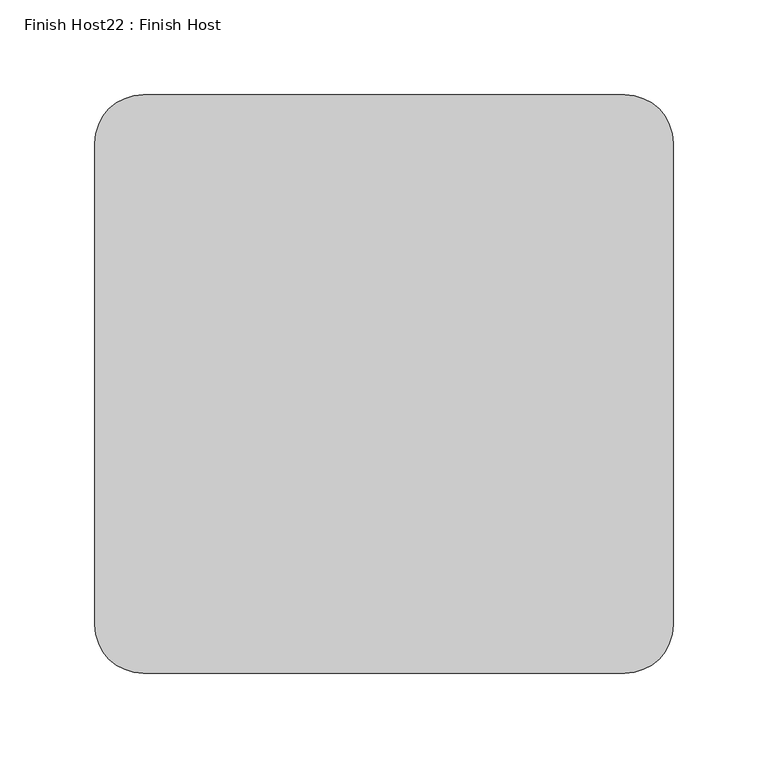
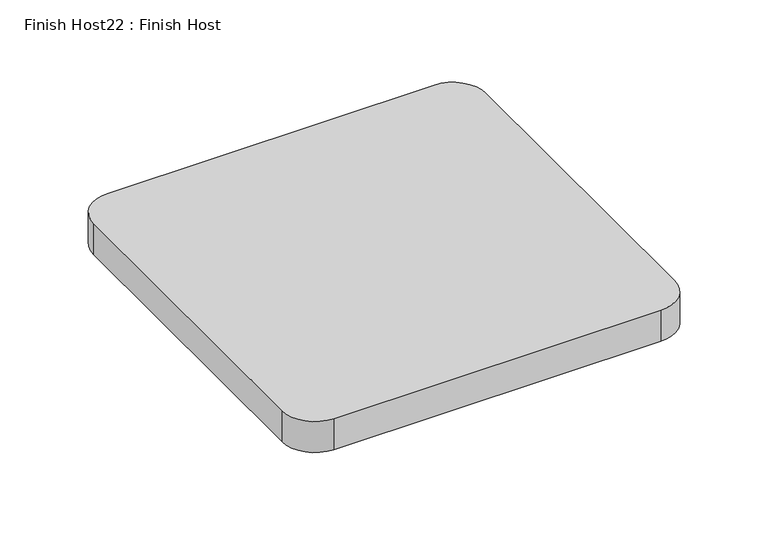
"""IFC4 building model written with IfcOpenShell, lengths in millimetres: proxy geometry, Finish Host22 : Finish Host."""

from ifc_helpers import new_model, si_unit, point, frame_2d, origin, origin_with_axes, place, context, project, spatial, polyline, circle_curve, trimmed, segment, composite_curve, outline, extrude, source, transform, mapped, element, save


def finish_host22_finish_host_cf7aacde(model_context):
    return source(origin(), model_context, "Body", "SweptSolid", [
        extrude(outline(composite_curve([segment(polyline([(1799.7649374, 804.1667263), (1799.7649374, 1058.1667263)]), True, "CONTINUOUS"), segment(trimmed(circle_curve(frame_2d((1825.1649374, 1058.1667263)), 25.4), [point((1799.7649374, 1058.1667263))], [point((1825.1649374, 1083.5667263))], False, "CARTESIAN"), True, "CONTINUOUS"), segment(polyline([(1825.1649374, 1083.5667263), (2079.1649374, 1083.5667263)]), True, "CONTINUOUS"), segment(trimmed(circle_curve(frame_2d((2079.1649374, 1058.1667263)), 25.4), [point((2079.1649374, 1083.5667263))], [point((2104.5649374, 1058.1667263))], False, "CARTESIAN"), True, "CONTINUOUS"), segment(polyline([(2104.5649374, 1058.1667263), (2104.5649374, 804.1667263)]), True, "CONTINUOUS"), segment(trimmed(circle_curve(frame_2d((2079.1649374, 804.1667263)), 25.4), [point((2104.5649374, 804.1667263))], [point((2079.1649374, 778.7667263))], False, "CARTESIAN"), True, "CONTINUOUS"), segment(polyline([(2079.1649374, 778.7667263), (1825.1649374, 778.7667263)]), True, "CONTINUOUS"), segment(trimmed(circle_curve(frame_2d((1825.1649374, 804.1667263)), 25.4), [point((1825.1649374, 778.7667263))], [point((1799.7649374, 804.1667263))], False, "CARTESIAN"), True, "CONTINUOUS")], self_intersect=False)), origin_with_axes(), (0.0, 0.0, 1.0), 25.4),
    ])


if __name__ == "__main__":
    model = new_model("IFC4")
    model_context = context("Model", 3, world=origin())
    ifc_project = project(units=[si_unit("LENGTHUNIT", "METRE", prefix="MILLI")], contexts=[model_context])
    site = spatial("IfcSite", under=ifc_project)
    building = spatial("IfcBuilding", under=site)
    placement = place(None, origin())
    finish_host22_finish_host_shape = finish_host22_finish_host_cf7aacde(model_context)
    element("IfcBuildingElementProxy", 1, Name="Finish Host22 : Finish Host", ObjectType="Finish Host22 : Finish Host", at=placement, inside=building, context=model_context, shape_type="MappedRepresentation", body=[
        mapped(finish_host22_finish_host_shape, transform((0.0, 0.0, 0.0), x_axis=(1.0, 0.0, 0.0), y_axis=(0.0, 1.0, 0.0), z_axis=(0.0, 0.0, 1.0))),
    ])
    save(model, "model.ifc")
